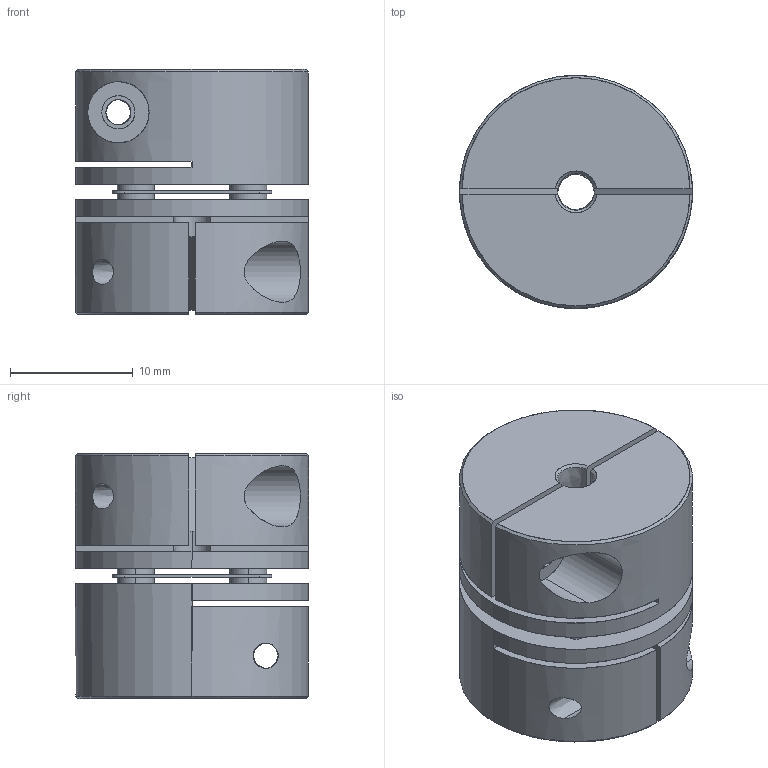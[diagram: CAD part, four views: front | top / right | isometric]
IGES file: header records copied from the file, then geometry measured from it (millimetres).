
Start section: SolidWorks IGES file using analytic representation for surfaces
Bounding box: 19 x 19 x 20 mm (x, y, z)
Surface area: 3712.1 mm2 (no closed solid volume)
Topology: 0 solids, 0 shells, 90 faces, 1871 edges, 1871 vertices
Faces by surface type: revolution 56, bspline 34
